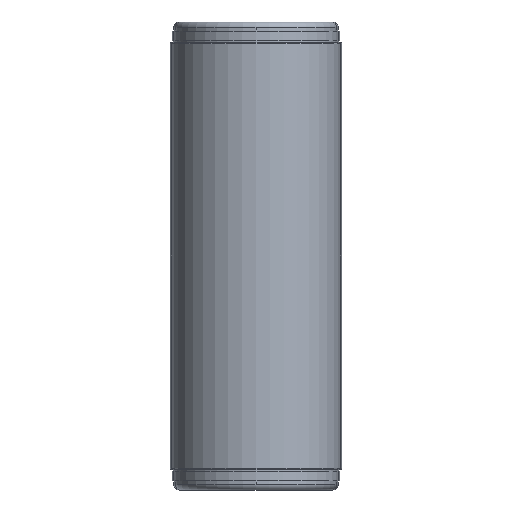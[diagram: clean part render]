
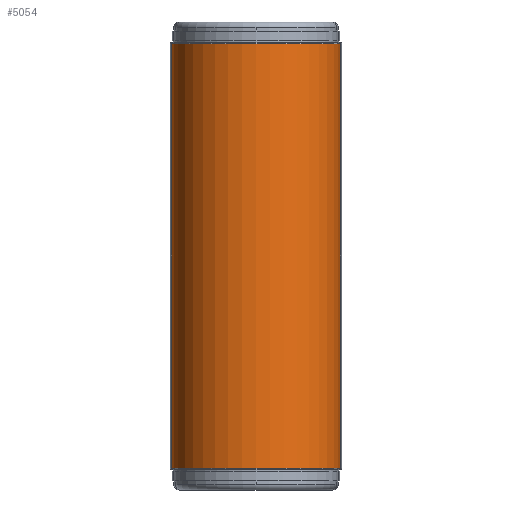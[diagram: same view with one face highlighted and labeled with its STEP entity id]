
A CAD part, left-side view. The second image highlights one B-rep face of the part: STEP entity #5054.
In plain terms, the highlighted cylindrical face has radius 75.3 mm (diameter 150.6 mm), a partial arc.
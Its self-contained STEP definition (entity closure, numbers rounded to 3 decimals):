
#87 = LINE ( 'NONE', #7515, #3939 ) ;
#138 = ORIENTED_EDGE ( 'NONE', *, *, #8215, .F. ) ;
#173 = CARTESIAN_POINT ( 'NONE',  ( -4.374, -75.173, -189.5 ) ) ;
#361 = CARTESIAN_POINT ( 'NONE',  ( 0., 0., 189.5 ) ) ;
#675 = ORIENTED_EDGE ( 'NONE', *, *, #3334, .T. ) ;
#740 = EDGE_CURVE ( 'NONE', #2695, #1796, #5395, .T. ) ;
#820 = DIRECTION ( 'NONE',  ( 0., 0., 1. ) ) ;
#896 = CIRCLE ( 'NONE', #4004, 75.3 ) ;
#1085 = ORIENTED_EDGE ( 'NONE', *, *, #740, .F. ) ;
#1136 = EDGE_LOOP ( 'NONE', ( #2638, #675, #138, #1085 ) ) ;
#1270 = CARTESIAN_POINT ( 'NONE',  ( -4.374, -75.173, 189.5 ) ) ;
#1478 = CARTESIAN_POINT ( 'NONE',  ( -4.374, 75.173, -189.5 ) ) ;
#1627 = LINE ( 'NONE', #1824, #2589 ) ;
#1697 = CYLINDRICAL_SURFACE ( 'NONE', #1977, 75.3 ) ;
#1796 = VERTEX_POINT ( 'NONE', #1270 ) ;
#1824 = CARTESIAN_POINT ( 'NONE',  ( -4.374, -75.173, 189.5 ) ) ;
#1919 = EDGE_CURVE ( 'NONE', #2695, #3691, #87, .T. ) ;
#1977 = AXIS2_PLACEMENT_3D ( 'NONE', #2971, #820, #2194 ) ;
#2194 = DIRECTION ( 'NONE',  ( 1., 0., 0. ) ) ;
#2509 = DIRECTION ( 'NONE',  ( 0., 0., -1. ) ) ;
#2589 = VECTOR ( 'NONE', #2509, 1000. ) ;
#2638 = ORIENTED_EDGE ( 'NONE', *, *, #1919, .T. ) ;
#2695 = VERTEX_POINT ( 'NONE', #3830 ) ;
#2705 = CARTESIAN_POINT ( 'NONE',  ( 0., 0., -189.5 ) ) ;
#2727 = DIRECTION ( 'NONE',  ( 0., 0., 1. ) ) ;
#2971 = CARTESIAN_POINT ( 'NONE',  ( 0., 0., 0. ) ) ;
#3085 = DIRECTION ( 'NONE',  ( 1., 0., 0. ) ) ;
#3334 = EDGE_CURVE ( 'NONE', #3691, #4233, #896, .T. ) ;
#3691 = VERTEX_POINT ( 'NONE', #1478 ) ;
#3830 = CARTESIAN_POINT ( 'NONE',  ( -4.374, 75.173, 189.5 ) ) ;
#3939 = VECTOR ( 'NONE', #8247, 1000. ) ;
#4004 = AXIS2_PLACEMENT_3D ( 'NONE', #2705, #2727, #4016 ) ;
#4016 = DIRECTION ( 'NONE',  ( 1., 0., 0. ) ) ;
#4233 = VERTEX_POINT ( 'NONE', #173 ) ;
#5054 = ADVANCED_FACE ( 'NONE', ( #6147 ), #1697, .T. ) ;
#5159 = DIRECTION ( 'NONE',  ( 0., 0., 1. ) ) ;
#5395 = CIRCLE ( 'NONE', #7637, 75.3 ) ;
#6147 = FACE_OUTER_BOUND ( 'NONE', #1136, .T. ) ;
#7515 = CARTESIAN_POINT ( 'NONE',  ( -4.374, 75.173, 189.5 ) ) ;
#7637 = AXIS2_PLACEMENT_3D ( 'NONE', #361, #5159, #3085 ) ;
#8215 = EDGE_CURVE ( 'NONE', #1796, #4233, #1627, .T. ) ;
#8247 = DIRECTION ( 'NONE',  ( 0., 0., -1. ) ) ;
